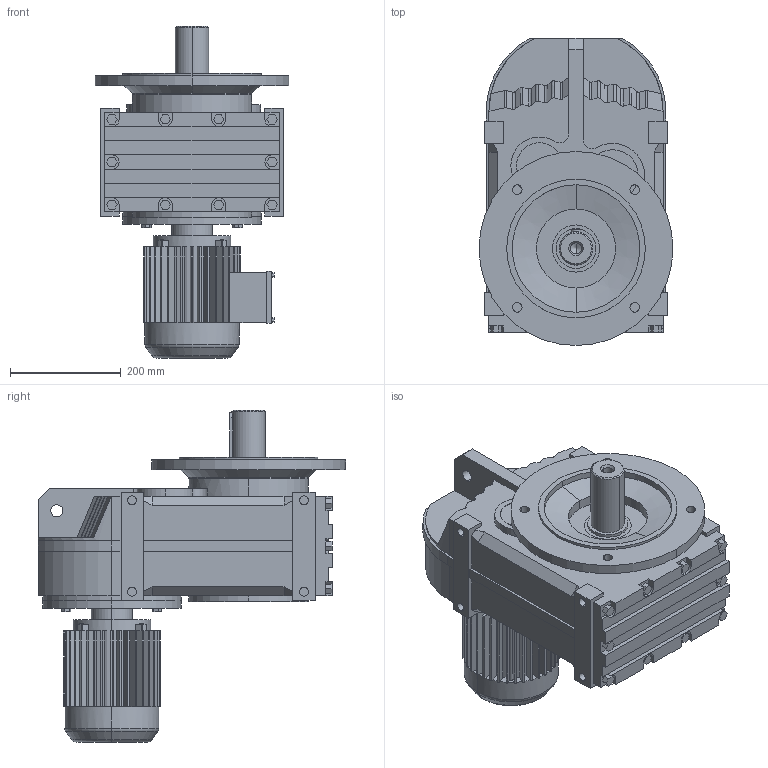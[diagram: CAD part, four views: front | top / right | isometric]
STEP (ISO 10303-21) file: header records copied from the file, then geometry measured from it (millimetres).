
FILE_DESCRIPTION(('Open CASCADE Model'),'2;1');
FILE_NAME('Open CASCADE Shape Model','2021-07-20T10:03:52',('Author'),( 'Open CASCADE'),'Open CASCADE STEP processor 6.3','Open CASCADE 6.3' ,'Unknown');
FILE_SCHEMA(('AUTOMOTIVE_DESIGN_CC2 { 1 2 10303 214 -1 1 5 4 }'));
Length unit declared in the file: millimetre
Products named in the file (5): 1_FF87-Y80M; FA27‵157_87.step; 萇儂_250_Y80M.step; す瑩妗陑粣F_87.step; 楊擘F_87.step
Assembly tree (4 placements, depth 2):
  1_FF87-Y80M
    FA27‵157_87.step
    萇儂_250_Y80M.step
    す瑩妗陑粣F_87.step
    楊擘F_87.step
Bounding box: 350 x 554 x 599 mm (x, y, z)
Volume: 36800598.2 mm3; surface area: 1499597.2 mm2
Topology: 4 solids, 4 shells, 815 faces, 2140 edges, 1388 vertices
Faces by surface type: plane 569, cylinder 214, bspline 16, cone 12, torus 4
Entity records: 55417 total; most frequent: CARTESIAN_POINT 14469, DIRECTION 7133, ORIENTED_EDGE 4276, PCURVE 4276, DEFINITIONAL_REPRESENTATION 4276, LINE 3949, VECTOR 3949, EDGE_CURVE 2138
